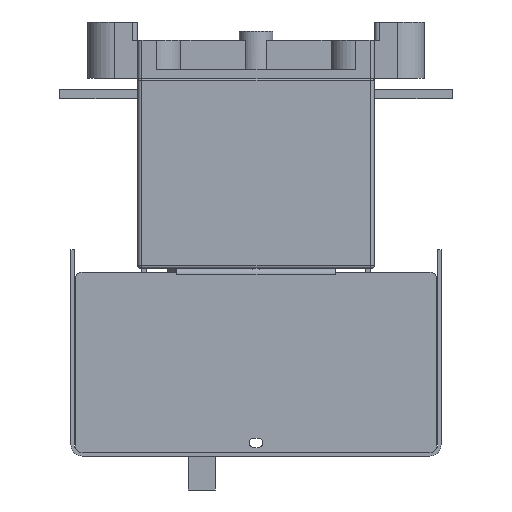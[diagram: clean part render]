
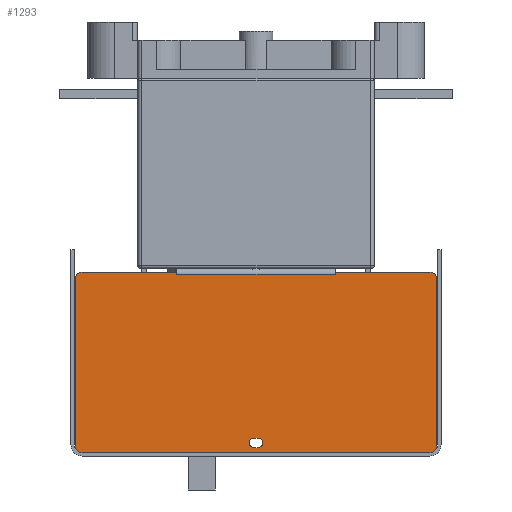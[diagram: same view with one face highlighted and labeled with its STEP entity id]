
A CAD part, left-side view. The second image highlights one B-rep face of the part: STEP entity #1293.
In plain terms, the highlighted planar face has unit normal (-1, 0, 0).
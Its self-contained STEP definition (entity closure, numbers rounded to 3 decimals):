
#170=FACE_BOUND('',#3957,.T.);
#171=FACE_BOUND('',#3958,.T.);
#1293=ADVANCED_FACE('',(#170,#171),#2077,.T.);
#2077=PLANE('',#20188);
#3957=EDGE_LOOP('',(#8567,#8568,#8569,#8570,#8571,#8572,#8573,#8574,#8575,
#8576,#8577,#8578,#8579,#8580));
#3958=EDGE_LOOP('',(#8581,#8582,#8583,#8584));
#4847=CIRCLE('',#20166,2.1);
#4849=CIRCLE('',#20170,2.1);
#4851=CIRCLE('',#20174,3.);
#4853=CIRCLE('',#20177,3.);
#4855=CIRCLE('',#20181,3.);
#4857=CIRCLE('',#20185,3.);
#8567=ORIENTED_EDGE('',*,*,#14131,.F.);
#8568=ORIENTED_EDGE('',*,*,#14132,.T.);
#8569=ORIENTED_EDGE('',*,*,#14133,.T.);
#8570=ORIENTED_EDGE('',*,*,#14134,.T.);
#8571=ORIENTED_EDGE('',*,*,#14135,.F.);
#8572=ORIENTED_EDGE('',*,*,#14123,.T.);
#8573=ORIENTED_EDGE('',*,*,#14128,.T.);
#8574=ORIENTED_EDGE('',*,*,#14111,.T.);
#8575=ORIENTED_EDGE('',*,*,#14114,.T.);
#8576=ORIENTED_EDGE('',*,*,#14089,.T.);
#8577=ORIENTED_EDGE('',*,*,#14117,.T.);
#8578=ORIENTED_EDGE('',*,*,#14120,.T.);
#8579=ORIENTED_EDGE('',*,*,#14122,.T.);
#8580=ORIENTED_EDGE('',*,*,#14097,.T.);
#8581=ORIENTED_EDGE('',*,*,#14101,.T.);
#8582=ORIENTED_EDGE('',*,*,#14105,.T.);
#8583=ORIENTED_EDGE('',*,*,#14108,.T.);
#8584=ORIENTED_EDGE('',*,*,#14130,.T.);
#11378=VERTEX_POINT('',#28525);
#11423=VERTEX_POINT('',#28622);
#11707=VERTEX_POINT('',#29713);
#11708=VERTEX_POINT('',#29715);
#11711=VERTEX_POINT('',#29722);
#11712=VERTEX_POINT('',#29724);
#11714=VERTEX_POINT('',#29730);
#11716=VERTEX_POINT('',#29736);
#11719=VERTEX_POINT('',#29743);
#11720=VERTEX_POINT('',#29745);
#11722=VERTEX_POINT('',#29754);
#11724=VERTEX_POINT('',#29760);
#11725=VERTEX_POINT('',#29767);
#11726=VERTEX_POINT('',#29768);
#11729=VERTEX_POINT('',#29782);
#11730=VERTEX_POINT('',#29784);
#11731=VERTEX_POINT('',#29786);
#11732=VERTEX_POINT('',#29788);
#14089=EDGE_CURVE('',#11378,#11423,#16393,.T.);
#14097=EDGE_CURVE('',#11708,#11707,#16400,.T.);
#14101=EDGE_CURVE('',#11712,#11711,#4847,.T.);
#14105=EDGE_CURVE('',#11711,#11714,#16406,.T.);
#14108=EDGE_CURVE('',#11714,#11716,#4849,.T.);
#14111=EDGE_CURVE('',#11720,#11719,#16410,.T.);
#14114=EDGE_CURVE('',#11719,#11378,#4851,.T.);
#14117=EDGE_CURVE('',#11423,#11722,#4853,.T.);
#14120=EDGE_CURVE('',#11722,#11724,#16415,.T.);
#14122=EDGE_CURVE('',#11724,#11708,#4855,.T.);
#14123=EDGE_CURVE('',#11725,#11726,#16416,.T.);
#14128=EDGE_CURVE('',#11726,#11720,#4857,.T.);
#14130=EDGE_CURVE('',#11716,#11712,#16421,.T.);
#14131=EDGE_CURVE('',#11729,#11707,#16422,.T.);
#14132=EDGE_CURVE('',#11729,#11730,#16423,.T.);
#14133=EDGE_CURVE('',#11730,#11731,#16424,.T.);
#14134=EDGE_CURVE('',#11731,#11732,#16425,.T.);
#14135=EDGE_CURVE('',#11725,#11732,#16426,.T.);
#16393=LINE('',#29696,#18417);
#16400=LINE('',#29714,#18424);
#16406=LINE('',#29731,#18430);
#16410=LINE('',#29744,#18434);
#16415=LINE('',#29761,#18439);
#16416=LINE('',#29766,#18440);
#16421=LINE('',#29779,#18445);
#16422=LINE('',#29781,#18446);
#16423=LINE('',#29783,#18447);
#16424=LINE('',#29785,#18448);
#16425=LINE('',#29787,#18449);
#16426=LINE('',#29789,#18450);
#18417=VECTOR('',#24177,1.);
#18424=VECTOR('',#24190,1.);
#18430=VECTOR('',#24204,1.);
#18434=VECTOR('',#24216,1.);
#18439=VECTOR('',#24235,1.);
#18440=VECTOR('',#24244,1.);
#18445=VECTOR('',#24257,1.);
#18446=VECTOR('',#24260,1.);
#18447=VECTOR('',#24261,1.);
#18448=VECTOR('',#24262,1.);
#18449=VECTOR('',#24263,1.);
#18450=VECTOR('',#24264,1.);
#20166=AXIS2_PLACEMENT_3D('',#29723,#24197,#24198);
#20170=AXIS2_PLACEMENT_3D('',#29737,#24210,#24211);
#20174=AXIS2_PLACEMENT_3D('',#29749,#24222,#24223);
#20177=AXIS2_PLACEMENT_3D('',#29755,#24229,#24230);
#20181=AXIS2_PLACEMENT_3D('',#29764,#24240,#24241);
#20185=AXIS2_PLACEMENT_3D('',#29776,#24252,#24253);
#20188=AXIS2_PLACEMENT_3D('',#29790,#24265,#24266);
#24177=DIRECTION('',(0.,-1.,0.));
#24190=DIRECTION('',(0.,1.,0.));
#24197=DIRECTION('',(1.,0.,0.));
#24198=DIRECTION('',(0.,1.,0.));
#24204=DIRECTION('',(0.,-1.,0.));
#24210=DIRECTION('',(1.,0.,0.));
#24211=DIRECTION('',(0.,1.,0.));
#24216=DIRECTION('',(0.,0.,-1.));
#24222=DIRECTION('',(-1.,0.,0.));
#24223=DIRECTION('',(0.,1.,0.));
#24229=DIRECTION('',(-1.,0.,0.));
#24230=DIRECTION('',(0.,1.,0.));
#24235=DIRECTION('',(0.,0.,1.));
#24240=DIRECTION('',(-1.,0.,0.));
#24241=DIRECTION('',(0.,1.,0.));
#24244=DIRECTION('',(0.,1.,0.));
#24252=DIRECTION('',(-1.,0.,0.));
#24253=DIRECTION('',(0.,1.,0.));
#24257=DIRECTION('',(0.,1.,0.));
#24260=DIRECTION('',(0.,0.,1.));
#24261=DIRECTION('',(0.,1.,0.));
#24262=DIRECTION('',(0.,1.,0.));
#24263=DIRECTION('',(0.,1.,0.));
#24264=DIRECTION('',(0.,0.,-1.));
#24265=DIRECTION('',(-1.,0.,0.));
#24266=DIRECTION('',(0.,-1.,0.));
#28525=CARTESIAN_POINT('',(-189.3,77.,-165.8));
#28622=CARTESIAN_POINT('',(-189.3,-77.,-165.8));
#29696=CARTESIAN_POINT('',(-189.3,77.,-165.8));
#29713=CARTESIAN_POINT('',(-189.3,-35.002,-85.8));
#29714=CARTESIAN_POINT('',(-189.3,-77.,-85.8));
#29715=CARTESIAN_POINT('',(-189.3,-77.,-85.8));
#29722=CARTESIAN_POINT('',(-189.3,1.,-159.3));
#29723=CARTESIAN_POINT('',(-189.3,1.,-161.4));
#29724=CARTESIAN_POINT('',(-189.3,1.,-163.5));
#29730=CARTESIAN_POINT('',(-189.3,-1.,-159.3));
#29731=CARTESIAN_POINT('',(-189.3,1.,-159.3));
#29736=CARTESIAN_POINT('',(-189.3,-1.,-163.5));
#29737=CARTESIAN_POINT('',(-189.3,-1.,-161.4));
#29743=CARTESIAN_POINT('',(-189.3,80.,-162.8));
#29744=CARTESIAN_POINT('',(-189.3,80.,-88.8));
#29745=CARTESIAN_POINT('',(-189.3,80.,-88.8));
#29749=CARTESIAN_POINT('',(-189.3,77.,-162.8));
#29754=CARTESIAN_POINT('',(-189.3,-80.,-162.8));
#29755=CARTESIAN_POINT('',(-189.3,-77.,-162.8));
#29760=CARTESIAN_POINT('',(-189.3,-80.,-88.8));
#29761=CARTESIAN_POINT('',(-189.3,-80.,-162.8));
#29764=CARTESIAN_POINT('',(-189.3,-77.,-88.8));
#29766=CARTESIAN_POINT('',(-189.3,-77.,-85.8));
#29767=CARTESIAN_POINT('',(-189.3,35.002,-85.8));
#29768=CARTESIAN_POINT('',(-189.3,77.,-85.8));
#29776=CARTESIAN_POINT('',(-189.3,77.,-88.8));
#29779=CARTESIAN_POINT('',(-189.3,-1.,-163.5));
#29781=CARTESIAN_POINT('',(-189.3,-35.002,-162.8));
#29782=CARTESIAN_POINT('',(-189.3,-35.002,-86.8));
#29783=CARTESIAN_POINT('',(-189.3,77.,-86.8));
#29784=CARTESIAN_POINT('',(-189.3,-35.,-86.8));
#29785=CARTESIAN_POINT('',(-189.3,50.5,-86.8));
#29786=CARTESIAN_POINT('',(-189.3,35.,-86.8));
#29787=CARTESIAN_POINT('',(-189.3,77.,-86.8));
#29788=CARTESIAN_POINT('',(-189.3,35.002,-86.8));
#29789=CARTESIAN_POINT('',(-189.3,35.002,-162.8));
#29790=CARTESIAN_POINT('',(-189.3,77.,-162.8));
